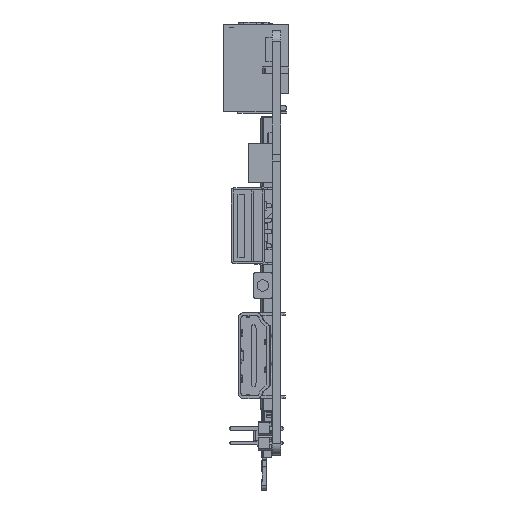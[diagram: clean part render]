
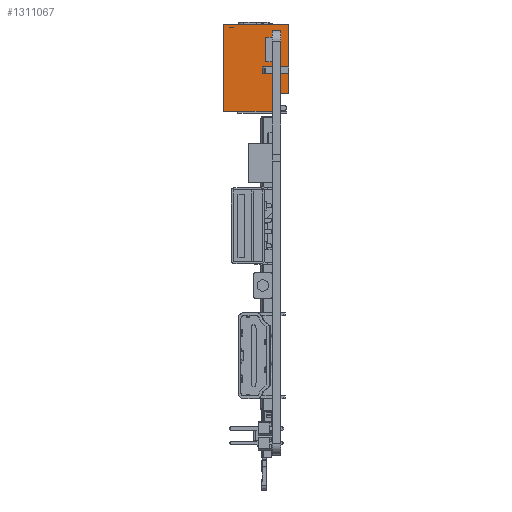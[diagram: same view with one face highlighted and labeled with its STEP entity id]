
A CAD part, left-side view. The second image highlights one B-rep face of the part: STEP entity #1311067.
In plain terms, the highlighted planar face has unit normal (-1, 0, 0).
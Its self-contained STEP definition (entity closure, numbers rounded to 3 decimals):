
#1310168=DIRECTION('',(0.,0.,-1.));
#1310169=VECTOR('',#1310168,3.15);
#1310170=CARTESIAN_POINT('',(-8.1,-2.85,-12.05));
#1310171=LINE('',#1310170,#1310169);
#1310172=DIRECTION('',(0.,0.,1.));
#1310173=VECTOR('',#1310172,15.2);
#1310174=CARTESIAN_POINT('',(-8.1,5.7,-15.2));
#1310175=LINE('',#1310174,#1310173);
#1310176=DIRECTION('',(0.,-1.,0.));
#1310177=VECTOR('',#1310176,11.4);
#1310178=CARTESIAN_POINT('',(-8.1,5.7,0.));
#1310179=LINE('',#1310178,#1310177);
#1310180=DIRECTION('',(0.,0.,-1.));
#1310181=VECTOR('',#1310180,12.05);
#1310182=CARTESIAN_POINT('',(-8.1,-5.7,0.));
#1310183=LINE('',#1310182,#1310181);
#1310184=DIRECTION('',(0.,1.,0.));
#1310185=VECTOR('',#1310184,0.253);
#1310186=CARTESIAN_POINT('',(-8.1,-1.453,-7.435));
#1310187=LINE('',#1310186,#1310185);
#1310188=DIRECTION('',(0.,0.,-1.));
#1310189=VECTOR('',#1310188,1.176);
#1310190=CARTESIAN_POINT('',(-8.1,-1.2,-7.435));
#1310191=LINE('',#1310190,#1310189);
#1310192=DIRECTION('',(0.,0.,-1.));
#1310193=VECTOR('',#1310192,4.3);
#1310194=CARTESIAN_POINT('',(-8.1,-1.65,-2.25));
#1310195=LINE('',#1310194,#1310193);
#1310196=DIRECTION('',(0.,-1.,0.));
#1310197=VECTOR('',#1310196,1.2);
#1310198=CARTESIAN_POINT('',(-8.1,-1.65,-6.55));
#1310199=LINE('',#1310198,#1310197);
#1310200=DIRECTION('',(0.,0.,1.));
#1310201=VECTOR('',#1310200,4.3);
#1310202=CARTESIAN_POINT('',(-8.1,-2.85,-6.55));
#1310203=LINE('',#1310202,#1310201);
#1310216=DIRECTION('',(0.,-1.,0.));
#1310217=VECTOR('',#1310216,2.85);
#1310218=CARTESIAN_POINT('',(-8.1,-2.85,-12.05));
#1310219=LINE('',#1310218,#1310217);
#1310276=DIRECTION('',(0.,-1.,0.));
#1310277=VECTOR('',#1310276,8.55);
#1310278=CARTESIAN_POINT('',(-8.1,5.7,-15.2));
#1310279=LINE('',#1310278,#1310277);
#1310424=DIRECTION('',(0.,1.,0.));
#1310425=VECTOR('',#1310424,0.253);
#1310426=CARTESIAN_POINT('',(-8.1,-1.453,-8.611));
#1310427=LINE('',#1310426,#1310425);
#1310464=DIRECTION('',(0.,0.,-1.));
#1310465=VECTOR('',#1310464,1.176);
#1310466=CARTESIAN_POINT('',(-8.1,-1.453,-7.435));
#1310467=LINE('',#1310466,#1310465);
#1310472=DIRECTION('',(0.,-1.,0.));
#1310473=VECTOR('',#1310472,1.2);
#1310474=CARTESIAN_POINT('',(-8.1,-1.65,-2.25));
#1310475=LINE('',#1310474,#1310473);
#1310704=CARTESIAN_POINT('',(-8.1,-5.7,0.));
#1310705=VERTEX_POINT('',#1310704);
#1310706=CARTESIAN_POINT('',(-8.1,5.7,0.));
#1310707=VERTEX_POINT('',#1310706);
#1310740=CARTESIAN_POINT('',(-8.1,5.7,-15.2));
#1310741=VERTEX_POINT('',#1310740);
#1310744=CARTESIAN_POINT('',(-8.1,-2.85,-12.05));
#1310745=CARTESIAN_POINT('',(-8.1,-2.85,-15.2));
#1310746=VERTEX_POINT('',#1310744);
#1310747=VERTEX_POINT('',#1310745);
#1310748=CARTESIAN_POINT('',(-8.1,-5.7,-12.05));
#1310749=VERTEX_POINT('',#1310748);
#1310750=CARTESIAN_POINT('',(-8.1,-1.453,-7.435));
#1310751=CARTESIAN_POINT('',(-8.1,-1.2,-7.435));
#1310752=VERTEX_POINT('',#1310750);
#1310753=VERTEX_POINT('',#1310751);
#1310754=CARTESIAN_POINT('',(-8.1,-1.2,-8.611));
#1310755=VERTEX_POINT('',#1310754);
#1310756=CARTESIAN_POINT('',(-8.1,-1.453,-8.611));
#1310757=VERTEX_POINT('',#1310756);
#1310758=CARTESIAN_POINT('',(-8.1,-1.65,-2.25));
#1310759=CARTESIAN_POINT('',(-8.1,-2.85,-2.25));
#1310760=VERTEX_POINT('',#1310758);
#1310761=VERTEX_POINT('',#1310759);
#1310762=CARTESIAN_POINT('',(-8.1,-1.65,-6.55));
#1310763=VERTEX_POINT('',#1310762);
#1310764=CARTESIAN_POINT('',(-8.1,-2.85,-6.55));
#1310765=VERTEX_POINT('',#1310764);
#1311030=CARTESIAN_POINT('',(-8.1,5.7,0.));
#1311031=DIRECTION('',(-1.,0.,0.));
#1311032=DIRECTION('',(0.,-1.,0.));
#1311033=AXIS2_PLACEMENT_3D('',#1311030,#1311031,#1311032);
#1311034=PLANE('',#1311033);
#1311036=ORIENTED_EDGE('',*,*,#1311035,.T.);
#1311038=ORIENTED_EDGE('',*,*,#1311037,.F.);
#1311039=ORIENTED_EDGE('',*,*,#1311008,.T.);
#1311040=ORIENTED_EDGE('',*,*,#1310917,.T.);
#1311042=ORIENTED_EDGE('',*,*,#1311041,.T.);
#1311044=ORIENTED_EDGE('',*,*,#1311043,.F.);
#1311045=EDGE_LOOP('',(#1311036,#1311038,#1311039,#1311040,#1311042,#1311044));
#1311046=FACE_OUTER_BOUND('',#1311045,.F.);
#1311048=ORIENTED_EDGE('',*,*,#1311047,.T.);
#1311050=ORIENTED_EDGE('',*,*,#1311049,.T.);
#1311052=ORIENTED_EDGE('',*,*,#1311051,.F.);
#1311054=ORIENTED_EDGE('',*,*,#1311053,.F.);
#1311055=EDGE_LOOP('',(#1311048,#1311050,#1311052,#1311054));
#1311056=FACE_BOUND('',#1311055,.F.);
#1311058=ORIENTED_EDGE('',*,*,#1311057,.F.);
#1311060=ORIENTED_EDGE('',*,*,#1311059,.T.);
#1311062=ORIENTED_EDGE('',*,*,#1311061,.T.);
#1311064=ORIENTED_EDGE('',*,*,#1311063,.T.);
#1311065=EDGE_LOOP('',(#1311058,#1311060,#1311062,#1311064));
#1311066=FACE_BOUND('',#1311065,.F.);
#1311067=ADVANCED_FACE('',(#1311046,#1311056,#1311066),#1311034,.T.);
#1310917=EDGE_CURVE('',#1310707,#1310705,#1310179,.T.);
#1311008=EDGE_CURVE('',#1310741,#1310707,#1310175,.T.);
#1311035=EDGE_CURVE('',#1310746,#1310747,#1310171,.T.);
#1311037=EDGE_CURVE('',#1310741,#1310747,#1310279,.T.);
#1311041=EDGE_CURVE('',#1310705,#1310749,#1310183,.T.);
#1311043=EDGE_CURVE('',#1310746,#1310749,#1310219,.T.);
#1311047=EDGE_CURVE('',#1310752,#1310753,#1310187,.T.);
#1311049=EDGE_CURVE('',#1310753,#1310755,#1310191,.T.);
#1311051=EDGE_CURVE('',#1310757,#1310755,#1310427,.T.);
#1311053=EDGE_CURVE('',#1310752,#1310757,#1310467,.T.);
#1311057=EDGE_CURVE('',#1310760,#1310761,#1310475,.T.);
#1311059=EDGE_CURVE('',#1310760,#1310763,#1310195,.T.);
#1311061=EDGE_CURVE('',#1310763,#1310765,#1310199,.T.);
#1311063=EDGE_CURVE('',#1310765,#1310761,#1310203,.T.);
